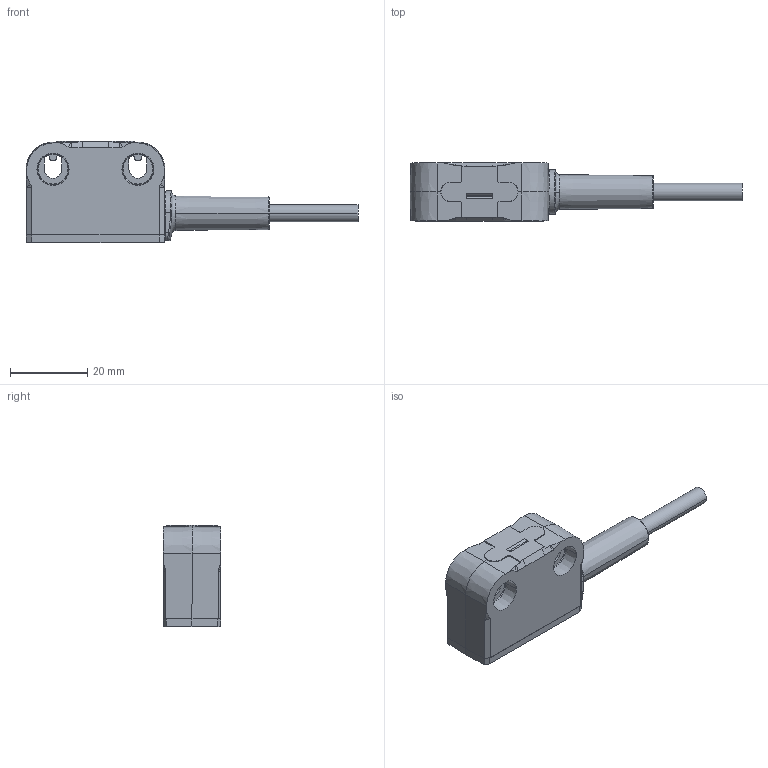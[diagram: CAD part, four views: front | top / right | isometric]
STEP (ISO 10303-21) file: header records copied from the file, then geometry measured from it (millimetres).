
FILE_DESCRIPTION((''),'2;1');
FILE_NAME('6490654363_SW0001','2025-01-14T11:49:27',('Rudolf.Poettker'),(''),'CREO PARAMETRIC BY PTC INC, 2022124','CREO PARAMETRIC BY PTC INC, 2022124','');
FILE_SCHEMA(('AUTOMOTIVE_DESIGN { 1 0 10303 214 1 1 1 1 }'));
Length unit declared in the file: millimetre
Products named in the file (1): 6490654363_SW0001
Bounding box: 86 x 15 x 26.2 mm (x, y, z)
Volume: 14502.1 mm3; surface area: 6237.5 mm2
Topology: 1 solids, 1 shells, 248 faces, 653 edges, 408 vertices
Faces by surface type: plane 117, cone 44, cylinder 38, torus 25, bspline 24
Entity records: 13696 total; most frequent: CARTESIAN_POINT 3277, ORIENTED_EDGE 1306, DIRECTION 1186, PRESENTATION_STYLE_ASSIGNMENT 906, STYLED_ITEM 658, CURVE_STYLE 657, EDGE_CURVE 653, AXIS2_PLACEMENT_3D 408
